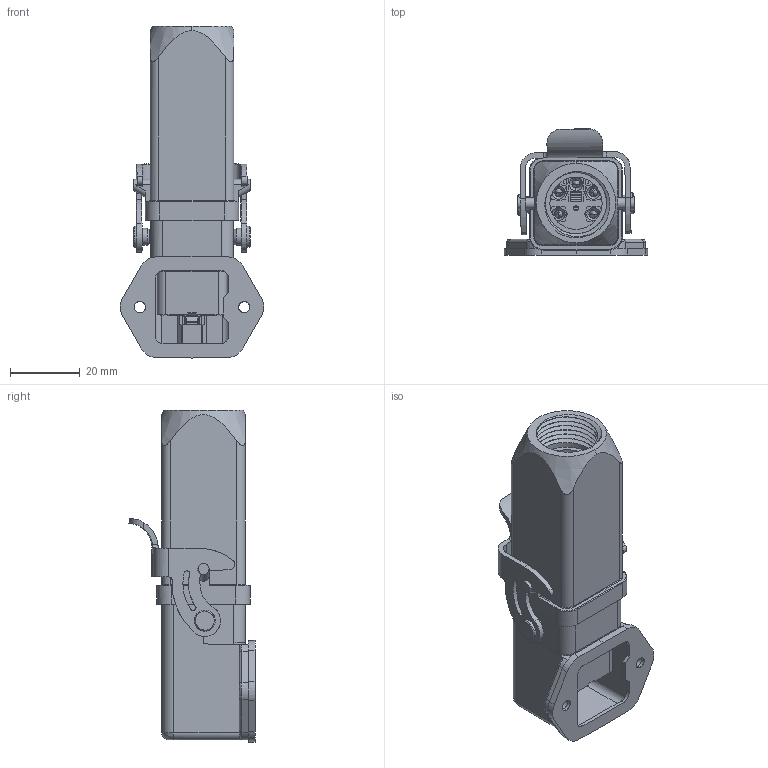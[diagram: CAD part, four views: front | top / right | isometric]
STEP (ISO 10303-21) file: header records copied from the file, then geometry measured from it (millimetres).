
FILE_DESCRIPTION (( 'STEP AP214' ), '1' );
FILE_NAME ('09104003120 H3A HA、4针、开孔侧出、顶出20套件、.STEP', '2024-04-16T02:59:28', ( 'L' ), ( '' ), 'SwSTEP 2.0', 'SolidWorks 2019', '' );
FILE_SCHEMA (( 'AUTOMOTIVE_DESIGN' ));
Length unit declared in the file: millimetre
Products named in the file (8): h3a-mags.STEP; H3A-MAGS-M20.STEP; 09104003120 H3A  HA、4针、开孔侧出、顶出20套件、; H3A-MTG-M20.step; h3amfd.STEP; HAS-004-F.step; q5biaomian.STEP; HAS-004-M.step
Assembly tree (7 placements, depth 3):
  09104003120 H3A  HA、4针、开孔侧出、顶出20套件、
    H3A-MAGS-M20.STEP
      q5biaomian.STEP
      h3a-mags.STEP
      h3amfd.STEP
    H3A-MTG-M20.step
    HAS-004-F.step
    HAS-004-M.step
Bounding box: 41.2 x 36.22 x 95.42 mm (x, y, z)
Volume: 38250.8 mm3; surface area: 33914.8 mm2
Topology: 6 solids, 6 shells, 1579 faces, 4416 edges, 2878 vertices
Faces by surface type: plane 844, cylinder 346, bspline 288, cone 81, torus 20
Entity records: 66002 total; most frequent: CARTESIAN_POINT 19686, ORIENTED_EDGE 8752, DIRECTION 6629, EDGE_CURVE 4376, VERTEX_POINT 2878, VECTOR 2745, LINE 2745, AXIS2_PLACEMENT_3D 1942
